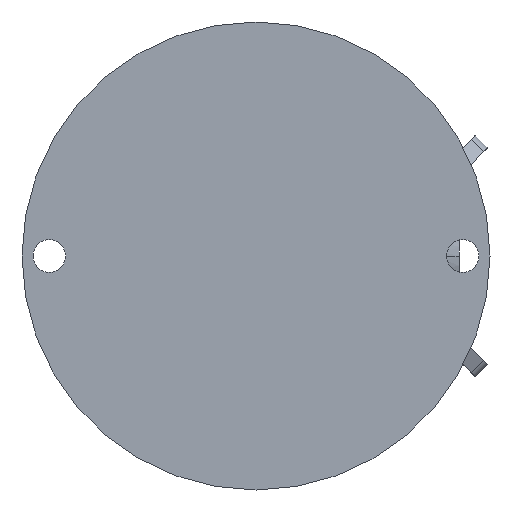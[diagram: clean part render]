
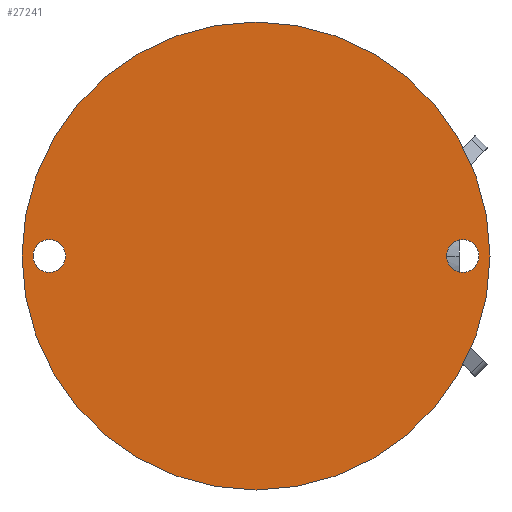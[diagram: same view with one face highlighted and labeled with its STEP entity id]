
A CAD part, front view. The second image highlights one B-rep face of the part: STEP entity #27241.
In plain terms, the highlighted planar face has unit normal (0, -1, 0).
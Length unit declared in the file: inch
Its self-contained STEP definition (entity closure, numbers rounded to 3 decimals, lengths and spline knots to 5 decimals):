
#212 = DIRECTION ( 'NONE',  ( 0., 0., 1. ) ) ;
#1032 = PLANE ( 'NONE',  #15829 ) ;
#1225 = DIRECTION ( 'NONE',  ( 0., 1., 0. ) ) ;
#2115 = AXIS2_PLACEMENT_3D ( 'NONE', #14010, #21031, #12053 ) ;
#2331 = DIRECTION ( 'NONE',  ( 0., 1., 0. ) ) ;
#3068 = ORIENTED_EDGE ( 'NONE', *, *, #27803, .F. ) ;
#3277 = AXIS2_PLACEMENT_3D ( 'NONE', #9183, #2331, #24968 ) ;
#3333 = FACE_BOUND ( 'NONE', #19163, .T. ) ;
#3650 = ORIENTED_EDGE ( 'NONE', *, *, #7832, .F. ) ;
#3684 = EDGE_CURVE ( 'NONE', #5655, #28238, #28178, .T. ) ;
#4116 = VERTEX_POINT ( 'NONE', #7232 ) ;
#4904 = CARTESIAN_POINT ( 'NONE',  ( -0.7175, -0.56295, -0.0565 ) ) ;
#5655 = VERTEX_POINT ( 'NONE', #4904 ) ;
#5686 = CARTESIAN_POINT ( 'NONE',  ( 0., -0.56295, 0. ) ) ;
#6107 = VERTEX_POINT ( 'NONE', #6840 ) ;
#6686 = ORIENTED_EDGE ( 'NONE', *, *, #26550, .F. ) ;
#6840 = CARTESIAN_POINT ( 'NONE',  ( 0.7175, -0.56295, 0.0565 ) ) ;
#7006 = AXIS2_PLACEMENT_3D ( 'NONE', #5686, #21061, #21337 ) ;
#7232 = CARTESIAN_POINT ( 'NONE',  ( 0.7175, -0.56295, -0.0565 ) ) ;
#7392 = EDGE_LOOP ( 'NONE', ( #3068, #6686 ) ) ;
#7832 = EDGE_CURVE ( 'NONE', #15451, #13209, #27845, .T. ) ;
#9183 = CARTESIAN_POINT ( 'NONE',  ( 0., -0.56295, 0. ) ) ;
#9230 = AXIS2_PLACEMENT_3D ( 'NONE', #18684, #9804, #25799 ) ;
#9804 = DIRECTION ( 'NONE',  ( 0., -1., 0. ) ) ;
#10981 = CIRCLE ( 'NONE', #7006, 0.81225 ) ;
#12053 = DIRECTION ( 'NONE',  ( 0., 0., 1. ) ) ;
#12363 = DIRECTION ( 'NONE',  ( 0., -1., 0. ) ) ;
#13209 = VERTEX_POINT ( 'NONE', #15423 ) ;
#13516 = FACE_BOUND ( 'NONE', #7392, .T. ) ;
#14010 = CARTESIAN_POINT ( 'NONE',  ( 0.7175, -0.56295, 0. ) ) ;
#14347 = EDGE_LOOP ( 'NONE', ( #3650, #25178 ) ) ;
#15423 = CARTESIAN_POINT ( 'NONE',  ( 0., -0.56295, -0.81225 ) ) ;
#15451 = VERTEX_POINT ( 'NONE', #16870 ) ;
#15541 = AXIS2_PLACEMENT_3D ( 'NONE', #27169, #22432, #212 ) ;
#15829 = AXIS2_PLACEMENT_3D ( 'NONE', #21274, #1225, #19293 ) ;
#16804 = CARTESIAN_POINT ( 'NONE',  ( -0.7175, -0.56295, 0.0565 ) ) ;
#16813 = CARTESIAN_POINT ( 'NONE',  ( -0.7175, -0.56295, 0. ) ) ;
#16870 = CARTESIAN_POINT ( 'NONE',  ( 0., -0.56295, 0.81225 ) ) ;
#17126 = ORIENTED_EDGE ( 'NONE', *, *, #3684, .F. ) ;
#17409 = CIRCLE ( 'NONE', #23215, 0.0565 ) ;
#17750 = CIRCLE ( 'NONE', #9230, 0.0565 ) ;
#18684 = CARTESIAN_POINT ( 'NONE',  ( 0.7175, -0.56295, 0. ) ) ;
#18806 = FACE_OUTER_BOUND ( 'NONE', #14347, .T. ) ;
#19163 = EDGE_LOOP ( 'NONE', ( #27874, #17126 ) ) ;
#19261 = DIRECTION ( 'NONE',  ( 0., 0., 1. ) ) ;
#19293 = DIRECTION ( 'NONE',  ( 0., 0., 1. ) ) ;
#21031 = DIRECTION ( 'NONE',  ( 0., -1., 0. ) ) ;
#21061 = DIRECTION ( 'NONE',  ( 0., 1., 0. ) ) ;
#21274 = CARTESIAN_POINT ( 'NONE',  ( -0.2785, -0.56295, 0. ) ) ;
#21337 = DIRECTION ( 'NONE',  ( 0., 0., 1. ) ) ;
#22432 = DIRECTION ( 'NONE',  ( 0., -1., 0. ) ) ;
#23215 = AXIS2_PLACEMENT_3D ( 'NONE', #16813, #12363, #19261 ) ;
#24110 = CIRCLE ( 'NONE', #2115, 0.0565 ) ;
#24968 = DIRECTION ( 'NONE',  ( 0., 0., 1. ) ) ;
#25178 = ORIENTED_EDGE ( 'NONE', *, *, #29204, .F. ) ;
#25561 = EDGE_CURVE ( 'NONE', #28238, #5655, #17409, .T. ) ;
#25799 = DIRECTION ( 'NONE',  ( 0., 0., 1. ) ) ;
#26550 = EDGE_CURVE ( 'NONE', #4116, #6107, #17750, .T. ) ;
#27169 = CARTESIAN_POINT ( 'NONE',  ( -0.7175, -0.56295, 0. ) ) ;
#27241 = ADVANCED_FACE ( 'NONE', ( #13516, #3333, #18806 ), #1032, .F. ) ;
#27803 = EDGE_CURVE ( 'NONE', #6107, #4116, #24110, .T. ) ;
#27845 = CIRCLE ( 'NONE', #3277, 0.81225 ) ;
#27874 = ORIENTED_EDGE ( 'NONE', *, *, #25561, .F. ) ;
#28178 = CIRCLE ( 'NONE', #15541, 0.0565 ) ;
#28238 = VERTEX_POINT ( 'NONE', #16804 ) ;
#29204 = EDGE_CURVE ( 'NONE', #13209, #15451, #10981, .T. ) ;
